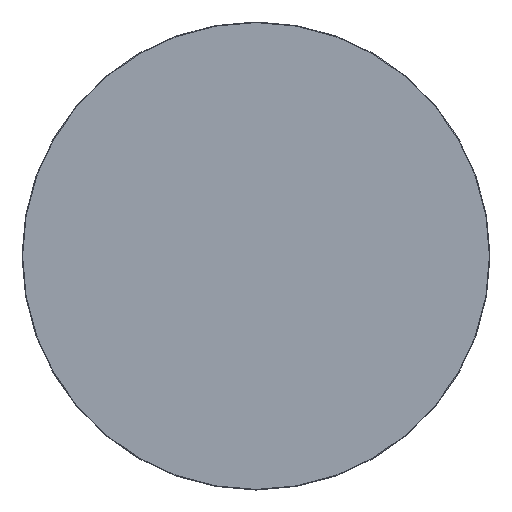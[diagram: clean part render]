
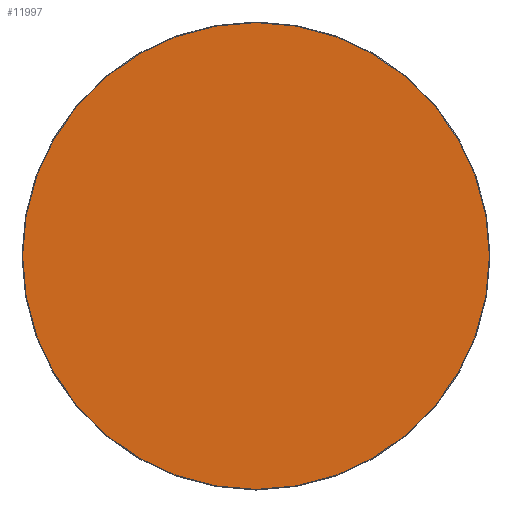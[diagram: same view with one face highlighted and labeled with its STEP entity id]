
A CAD part, top view. The second image highlights one B-rep face of the part: STEP entity #11997.
In plain terms, the highlighted planar face has unit normal (0, 0, 1).
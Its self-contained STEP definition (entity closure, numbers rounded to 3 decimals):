
#11922=CARTESIAN_POINT('',(0.,0.,20.));
#11923=DIRECTION('',(1.,0.,0.));
#11924=DIRECTION('',(0.,0.,1.));
#11925=AXIS2_PLACEMENT_3D('',#11922,#11924,#11923);
#11926=PLANE('',#11925);
#11927=CARTESIAN_POINT('',(-0.5,-598.5,20.));
#11928=VERTEX_POINT('',#11927);
#11929=CARTESIAN_POINT('',(0.5,-598.5,20.));
#11930=VERTEX_POINT('',#11929);
#11931=CARTESIAN_POINT('',(-0.5,-598.5,20.));
#11932=DIRECTION('',(1.,0.,0.));
#11933=VECTOR('',#11932,1.);
#11934=LINE('',#11931,#11933);
#11935=EDGE_CURVE('',#11928,#11930,#11934,.T.);
#11936=ORIENTED_EDGE('E105',*,*,#11935,.T.);
#11937=CARTESIAN_POINT('',(598.5,-0.5,20.));
#11938=VERTEX_POINT('',#11937);
#11939=CARTESIAN_POINT('',(0.5,-0.5,20.));
#11940=DIRECTION('',(0.,-1.,0.));
#11941=DIRECTION('',(0.,-0.,1.));
#11942=AXIS2_PLACEMENT_3D('',#11939,#11941,#11940);
#11943=CIRCLE('',#11942,598.);
#11944=EDGE_CURVE('',#11930,#11938,#11943,.T.);
#11945=ORIENTED_EDGE('E107',*,*,#11944,.T.);
#11946=CARTESIAN_POINT('',(598.5,0.5,20.));
#11947=VERTEX_POINT('',#11946);
#11948=CARTESIAN_POINT('',(598.5,-0.5,20.));
#11949=DIRECTION('',(0.,1.,0.));
#11950=VECTOR('',#11949,1.);
#11951=LINE('',#11948,#11950);
#11952=EDGE_CURVE('',#11938,#11947,#11951,.T.);
#11953=ORIENTED_EDGE('E109',*,*,#11952,.T.);
#11954=CARTESIAN_POINT('',(0.5,598.5,20.));
#11955=VERTEX_POINT('',#11954);
#11956=CARTESIAN_POINT('',(0.5,0.5,20.));
#11957=DIRECTION('',(1.,0.,0.));
#11958=DIRECTION('',(0.,0.,1.));
#11959=AXIS2_PLACEMENT_3D('',#11956,#11958,#11957);
#11960=CIRCLE('',#11959,598.);
#11961=EDGE_CURVE('',#11947,#11955,#11960,.T.);
#11962=ORIENTED_EDGE('E111',*,*,#11961,.T.);
#11963=CARTESIAN_POINT('',(-0.5,598.5,20.));
#11964=VERTEX_POINT('',#11963);
#11965=CARTESIAN_POINT('',(0.5,598.5,20.));
#11966=DIRECTION('',(-1.,0.,0.));
#11967=VECTOR('',#11966,1.);
#11968=LINE('',#11965,#11967);
#11969=EDGE_CURVE('',#11955,#11964,#11968,.T.);
#11970=ORIENTED_EDGE('E113',*,*,#11969,.T.);
#11971=CARTESIAN_POINT('',(-598.5,0.5,20.));
#11972=VERTEX_POINT('',#11971);
#11973=CARTESIAN_POINT('',(-0.5,0.5,20.));
#11974=DIRECTION('',(0.,1.,0.));
#11975=DIRECTION('',(0.,0.,1.));
#11976=AXIS2_PLACEMENT_3D('',#11973,#11975,#11974);
#11977=CIRCLE('',#11976,598.);
#11978=EDGE_CURVE('',#11964,#11972,#11977,.T.);
#11979=ORIENTED_EDGE('E115',*,*,#11978,.T.);
#11980=CARTESIAN_POINT('',(-598.5,-0.5,20.));
#11981=VERTEX_POINT('',#11980);
#11982=CARTESIAN_POINT('',(-598.5,0.5,20.));
#11983=DIRECTION('',(0.,-1.,0.));
#11984=VECTOR('',#11983,1.);
#11985=LINE('',#11982,#11984);
#11986=EDGE_CURVE('',#11972,#11981,#11985,.T.);
#11987=ORIENTED_EDGE('E117',*,*,#11986,.T.);
#11988=CARTESIAN_POINT('',(-0.5,-0.5,20.));
#11989=DIRECTION('',(-1.,0.,0.));
#11990=DIRECTION('',(0.,0.,1.));
#11991=AXIS2_PLACEMENT_3D('',#11988,#11990,#11989);
#11992=CIRCLE('',#11991,598.);
#11993=EDGE_CURVE('',#11981,#11928,#11992,.T.);
#11994=ORIENTED_EDGE('E119',*,*,#11993,.T.);
#11995=EDGE_LOOP('',(#11936,#11945,#11953,#11962,#11970,#11979,#11987,#11994));
#11996=FACE_OUTER_BOUND('',#11995,.T.);
#11997=ADVANCED_FACE('F2',(#11996),#11926,.T.);
